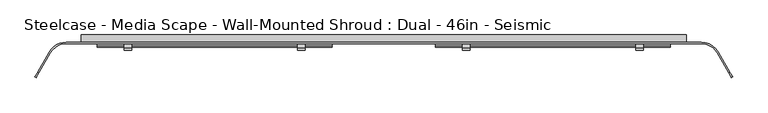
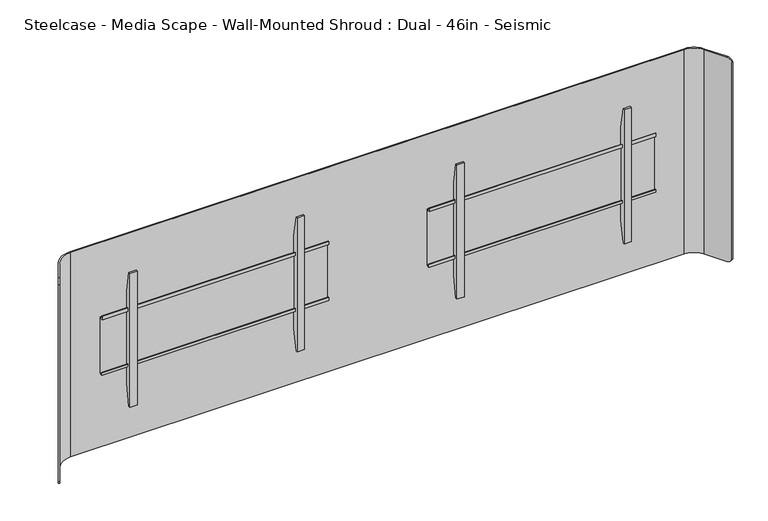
"""IFC4 building model written with IfcOpenShell, lengths in millimetres: furniture geometry, Steelcase - Media Scape - Wall-Mounted Shroud : Dual - 46in - Seismic."""

from ifc_helpers import new_model, si_unit, frame, origin, place, context, project, spatial, polyline, circle_curve, outline, extrude, source, transform, mapped, element, save
from ifc_brep_helpers import plane_surface, cylinder_surface, revolved_surface, advanced_brep


def steelcase_media_scape_wall_mounted_shroud_dual_46in_seismic_48c09d2e(model_context):
    return source(origin(), model_context, "Body", "SolidModel", [
        extrude(outline(polyline([(-42.4942785, 1326.5504726), (-42.4942785, 1338.5645649), (-39.8272175, 1338.5645649), (-39.8272175, 1329.217461), (-29.9720009, 1329.217461), (-29.9720009, 1114.8922438), (-42.3164551, 1114.8922438), (-42.3164551, 1125.8142515), (-39.649394, 1125.8142515), (-39.649394, 1117.557052), (-32.6531824, 1117.557052), (-32.6531824, 1326.5504726), (-42.4942785, 1326.5504726)])), frame((179.451, 0.0, 0.0), z_axis=(1.0, 0.0, 0.0), x_axis=(0.0, 1.0, 0.0)), (0.0, 0.0, 1.0), 812.8),
        extrude(outline(polyline([(-32.6531824, 1397.4971148), (-32.6531824, 1045.6825607), (-46.5049349, 968.0546949), (-53.3399828, 968.0546949), (-53.3399828, 1476.0547192), (-46.5050076, 1476.0547192), (-32.6531824, 1397.4971148)])), frame((273.052426, 0.0, 0.0), z_axis=(1.0, 0.0, 0.0), x_axis=(0.0, 1.0, 0.0)), (0.0, 0.0, 1.0), 26.1592872),
        extrude(outline(polyline([(-32.6531824, 1397.4971148), (-32.6531824, 1045.6825607), (-46.5049349, 968.0546949), (-53.3399828, 968.0546949), (-53.3399828, 1476.0547192), (-46.5050076, 1476.0547192), (-32.6531824, 1397.4971148)])), frame((872.4902868, 0.0, 0.0), z_axis=(1.0, 0.0, 0.0), x_axis=(0.0, 1.0, 0.0)), (0.0, 0.0, 1.0), 26.1592872),
        extrude(outline(polyline([(-42.4942785, 1326.5504726), (-42.4942785, 1338.5645649), (-39.8272175, 1338.5645649), (-39.8272175, 1329.217461), (-29.9720009, 1329.217461), (-29.9720009, 1114.8922438), (-42.3164551, 1114.8922438), (-42.3164551, 1125.8142515), (-39.649394, 1125.8142515), (-39.649394, 1117.557052), (-32.6531824, 1117.557052), (-32.6531824, 1326.5504726), (-42.4942785, 1326.5504726)])), frame((-992.251, 0.0, 0.0), z_axis=(1.0, 0.0, 0.0), x_axis=(0.0, 1.0, 0.0)), (0.0, 0.0, 1.0), 812.8),
        extrude(outline(polyline([(-32.6531824, 1397.4971148), (-32.6531824, 1045.6825607), (-46.5049349, 968.0546949), (-53.3399828, 968.0546949), (-53.3399828, 1476.0547192), (-46.5050076, 1476.0547192), (-32.6531824, 1397.4971148)])), frame((-299.2117132, 0.0, 0.0), z_axis=(1.0, 0.0, 0.0), x_axis=(0.0, 1.0, 0.0)), (0.0, 0.0, 1.0), 26.1592872),
        extrude(outline(polyline([(-32.6531824, 1397.4971148), (-32.6531824, 1045.6825607), (-46.5049349, 968.0546949), (-53.3399828, 968.0546949), (-53.3399828, 1476.0547192), (-46.5050076, 1476.0547192), (-32.6531824, 1397.4971148)])), frame((-898.649574, 0.0, 0.0), z_axis=(1.0, 0.0, 0.0), x_axis=(0.0, 1.0, 0.0)), (0.0, 0.0, 1.0), 26.1592872),
        extrude(outline(polyline([(1047.75, -25.4), (-1047.75, -25.4), (-1047.75, 0.0), (1047.75, 0.0), (1047.75, -25.4)])), frame((0.0, 0.0, 835.914), z_axis=(0.0, 0.0, 1.0), x_axis=(1.0, 0.0, 0.0)), (0.0, 0.0, 1.0), 76.2508167),
        advanced_brep(
        [(-1154.5586135, -61.722, 1610.614), (-1099.566002, -29.9720009, 1610.614), (1099.566, -29.9720009, 1610.614), (1154.5586135, -61.722, 1610.614), (1194.679586, -131.2135628, 1610.614), (1198.6390541, -128.9275628, 1610.614), (1158.5180817, -59.436, 1610.614), (1099.566002, -25.4, 1610.614), (-1099.566, -25.4, 1610.614), (-1158.5180817, -59.436, 1610.614), (-1198.6421659, -128.9329524, 1610.614), (-1194.6826977, -131.2189524, 1610.614), (-1158.5180817, -59.436, 835.914), (-1099.566002, -25.4, 835.914), (1099.566, -25.4, 835.914), (1158.5180817, -59.436, 835.914), (1198.6906629, -129.0169518, 835.914), (1194.7311948, -131.3029518, 835.914), (1154.5586135, -61.722, 835.914), (1099.566002, -29.9720009, 835.914), (-1099.566, -29.9720009, 835.914), (-1154.5586135, -61.722, 835.914), (-1194.7454014, -131.3275584, 835.914), (-1198.7048695, -129.0415584, 835.914), (-1208.2090632, -145.5033047, 849.5242766), (-1208.2090632, -145.5033047, 1596.6227735), (-1204.2495951, -147.7893047, 1596.6227735), (-1204.2495951, -147.7893047, 849.5242766), (1204.2270866, -147.7503189, 849.4756893), (1204.2270866, -147.7503189, 1596.7433849), (1208.1865547, -145.4643189, 1596.7433849), (1208.1865547, -145.4643189, 849.4756893)],
        [
            (0, 1, circle_curve(frame((-1099.566002, -93.4719991, 1610.614), z_axis=(0.0, 0.0, -1.0), x_axis=(0.0, 1.0, 0.0)), 63.4999981)),
            (1, 2),
            (2, 3, circle_curve(frame((1099.566002, -93.4719991, 1610.614), z_axis=(0.0, 0.0, -1.0), x_axis=(0.0, 1.0, 0.0)), 63.4999981)),
            (3, 4),
            (4, 5),
            (5, 6),
            (6, 7, circle_curve(frame((1099.5660004, -93.472, 1610.614), z_axis=(0.0, 0.0, 1.0), x_axis=(0.0, 1.0, 0.0)), 68.072)),
            (7, 8),
            (8, 9, circle_curve(frame((-1099.5660004, -93.472, 1610.614), z_axis=(0.0, 0.0, 1.0), x_axis=(0.0, 1.0, 0.0)), 68.072)),
            (9, 10),
            (10, 11),
            (11, 0),
            (12, 13, circle_curve(frame((-1099.5660004, -93.472, 835.914), z_axis=(0.0, 0.0, -1.0), x_axis=(0.0, 1.0, 0.0)), 68.072)),
            (13, 14),
            (14, 15, circle_curve(frame((1099.5660004, -93.472, 835.914), z_axis=(0.0, 0.0, -1.0), x_axis=(0.0, 1.0, 0.0)), 68.072)),
            (15, 16),
            (16, 17),
            (17, 18),
            (18, 19, circle_curve(frame((1099.566002, -93.4719991, 835.914), z_axis=(0.0, 0.0, 1.0), x_axis=(0.0, 1.0, 0.0)), 63.4999981)),
            (19, 20),
            (20, 21, circle_curve(frame((-1099.566002, -93.4719991, 835.914), z_axis=(0.0, 0.0, 1.0), x_axis=(0.0, 1.0, 0.0)), 63.4999981)),
            (21, 22),
            (22, 23),
            (23, 12),
            (0, 21),
            (20, 1),
            (8, 13),
            (12, 9),
            (23, 24, circle_curve(frame((-1198.7048695, -129.0415584, 855.9928872), z_axis=(-0.8660254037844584, 0.49999999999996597, 0.0), x_axis=(-0.49999999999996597, -0.8660254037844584, 0.0)), 20.0788872)),
            (24, 25),
            (25, 10, circle_curve(frame((-1198.6421659, -128.9329524, 1590.5351128), z_axis=(-0.8660254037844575, 0.49999999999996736, 0.0), x_axis=(-0.49999999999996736, -0.8660254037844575, 0.0)), 20.0788872)),
            (26, 25),
            (24, 27),
            (27, 26),
            (11, 26, circle_curve(frame((-1194.6826977, -131.2189524, 1590.5351128), z_axis=(0.8660254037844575, -0.49999999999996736, 0.0), x_axis=(-0.49999999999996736, -0.8660254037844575, 0.0)), 20.0788872)),
            (27, 22, circle_curve(frame((-1194.7454014, -131.3275584, 855.9928872), z_axis=(0.8660254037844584, -0.49999999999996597, 0.0), x_axis=(-0.49999999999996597, -0.8660254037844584, 0.0)), 20.0788872)),
            (7, 14),
            (19, 2),
            (3, 18),
            (17, 28, circle_curve(frame((1194.7311948, -131.3029518, 855.9928872), z_axis=(-0.8660254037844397, -0.49999999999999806, 0.0), x_axis=(0.49999999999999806, -0.8660254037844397, 0.0)), 20.0788872)),
            (28, 29),
            (29, 4, circle_curve(frame((1194.679586, -131.2135628, 1590.5351128), z_axis=(-0.8660254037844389, -0.4999999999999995, 0.0), x_axis=(0.4999999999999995, -0.8660254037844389, 0.0)), 20.0788872)),
            (30, 29),
            (28, 31),
            (31, 30),
            (15, 6),
            (5, 30, circle_curve(frame((1198.6390541, -128.9275628, 1590.5351128), z_axis=(0.8660254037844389, 0.4999999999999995, 0.0), x_axis=(0.4999999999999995, -0.8660254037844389, 0.0)), 20.0788872)),
            (31, 16, circle_curve(frame((1198.6906629, -129.0169518, 855.9928872), z_axis=(0.8660254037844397, 0.49999999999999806, 0.0), x_axis=(0.49999999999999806, -0.8660254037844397, 0.0)), 20.0788872)),
        ],
        [
            plane_surface(frame((-1099.566002, -29.9720009, 1610.614), z_axis=(0.0, 0.0, 1.0), x_axis=(1.0, 0.0, 0.0))),
            plane_surface(frame((-1099.566002, -29.9720009, 835.914), z_axis=(0.0, 0.0, -1.0), x_axis=(-1.0, 0.0, 0.0))),
            revolved_surface(polyline([(-1099.566002, -29.972001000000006, 835.914), (-1099.566002, -29.972001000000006, 1610.614)]), (-1099.566002, -93.4719991, 835.914), (0.0, 0.0, -1.0)),
            cylinder_surface(frame((-1099.5660004, -93.472, 835.914), z_axis=(0.0, 0.0, 1.0), x_axis=(0.0, 1.0, 0.0)), 68.072),
            plane_surface(frame((-1158.5180817, -59.436, 1610.614), z_axis=(-0.8660254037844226, 0.5000000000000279, 0.0), x_axis=(0.0, 0.0, -1.0))),
            plane_surface(frame((-1208.2090632, -145.5033047, 1610.614), z_axis=(-0.5000000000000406, -0.8660254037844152, 0.0), x_axis=(0.0, 0.0, -1.0))),
            plane_surface(frame((-1204.2495951, -147.7893047, 1610.614), z_axis=(0.8660254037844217, -0.5000000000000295, 0.0), x_axis=(0.0, 0.0, -1.0))),
            plane_surface(frame((1099.566, -25.4, 1610.614), z_axis=(0.0, 1.0, 0.0), x_axis=(0.0, 0.0, -1.0))),
            plane_surface(frame((-1099.566, -29.9720009, 1610.614), z_axis=(0.0, -1.0, 0.0), x_axis=(0.0, 0.0, -1.0))),
            plane_surface(frame((1154.5586135, -61.722, 1610.614), z_axis=(-0.8660254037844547, -0.4999999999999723, 0.0), x_axis=(0.0, 0.0, -1.0))),
            plane_surface(frame((1204.2270866, -147.7503189, 1610.614), z_axis=(0.4999999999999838, -0.866025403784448, 0.0), x_axis=(0.0, 0.0, -1.0))),
            plane_surface(frame((1208.1865547, -145.4643189, 1610.614), z_axis=(0.8660254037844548, 0.49999999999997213, 0.0), x_axis=(0.0, 0.0, -1.0))),
            cylinder_surface(frame((1099.5660004, -93.472, 835.914), z_axis=(0.0, 0.0, 1.0), x_axis=(0.0, 1.0, 0.0)), 68.072),
            revolved_surface(polyline([(1099.566002, -29.972001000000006, 835.914), (1099.566002, -29.972001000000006, 1610.614)]), (1099.566002, -93.4719991, 835.914), (0.0, 0.0, -1.0)),
            cylinder_surface(frame((-1194.6826977, -131.2189524, 1590.5351128), z_axis=(0.8660254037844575, -0.49999999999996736, 0.0), x_axis=(-0.49999999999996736, -0.8660254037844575, 0.0)), 20.0788872),
            cylinder_surface(frame((-1194.7454014, -131.3275584, 855.9928872), z_axis=(0.8660254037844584, -0.49999999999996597, 0.0), x_axis=(-0.49999999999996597, -0.8660254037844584, 0.0)), 20.0788872),
            cylinder_surface(frame((1209.7864297, -122.4916225, 1590.5351128), z_axis=(0.8660254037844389, 0.4999999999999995, 0.0), x_axis=(0.4999999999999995, -0.8660254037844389, 0.0)), 20.0788872),
            cylinder_surface(frame((1206.9789695, -124.2316958, 855.9928872), z_axis=(0.8660254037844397, 0.49999999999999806, 0.0), x_axis=(0.49999999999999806, -0.8660254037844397, 0.0)), 20.0788872),
        ],
        [
            (0, [[1, 2, 3, 4, 5, 6, 7, 8, 9, 10, 11, 12]]),
            (1, [[13, 14, 15, 16, 17, 18, 19, 20, 21, 22, 23, 24]]),
            (2, [[-1, 25, -21, 26]]),
            (3, [[-9, 27, -13, 28]]),
            (4, [[-28, -24, 29, 30, 31, -10]]),
            (5, [[32, -30, 33, 34]]),
            (6, [[-25, -12, 35, -34, 36, -22]]),
            (7, [[-8, 37, -14, -27]]),
            (8, [[-2, -26, -20, 38]]),
            (9, [[39, -18, 40, 41, 42, -4]]),
            (10, [[43, -41, 44, 45]]),
            (11, [[46, -6, 47, -45, 48, -16]]),
            (12, [[-7, -46, -15, -37]]),
            (13, [[-3, -38, -19, -39]]),
            (14, [[-11, -31, -32, -35]]),
            (15, [[-23, -36, -33, -29]]),
            (16, [[-5, -42, -43, -47]]),
            (17, [[-17, -48, -44, -40]]),
        ],
    ),
        extrude(outline(polyline([(912.1648167, 984.2499879), (912.1648167, 1047.75), (1534.414, 1047.75), (1534.414, -1047.75), (912.1648167, -1047.75), (912.1648167, -985.2433465), (1470.9139516, -985.2433465), (1470.9139516, 984.2499879), (912.1648167, 984.2499879)])), frame((0.0, -25.4, 0.0), z_axis=(0.0, 1.0, 0.0), x_axis=(0.0, 0.0, 1.0)), (0.0, 0.0, 1.0), 25.4),
    ])


if __name__ == "__main__":
    model = new_model("IFC4")
    model_context = context("Model", 3, world=origin())
    ifc_project = project(units=[si_unit("LENGTHUNIT", "METRE", prefix="MILLI")], contexts=[model_context])
    site = spatial("IfcSite", under=ifc_project)
    building = spatial("IfcBuilding", under=site)
    placement = place(None, origin())
    steelcase_media_scape_wall_mounted_shroud_dual_46in_seismic_shape = steelcase_media_scape_wall_mounted_shroud_dual_46in_seismic_48c09d2e(model_context)
    element("IfcFurniture", 1, ObjectType="Steelcase - Media Scape - Wall-Mounted Shroud : Dual - 46in - Seismic", at=placement, inside=building, context=model_context, shape_type="MappedRepresentation", body=[
        mapped(steelcase_media_scape_wall_mounted_shroud_dual_46in_seismic_shape, transform((0.0, 0.0, 0.0), x_axis=(1.0, 0.0, 0.0), y_axis=(0.0, 1.0, 0.0), z_axis=(0.0, 0.0, 1.0))),
    ])
    save(model, "model.ifc")
